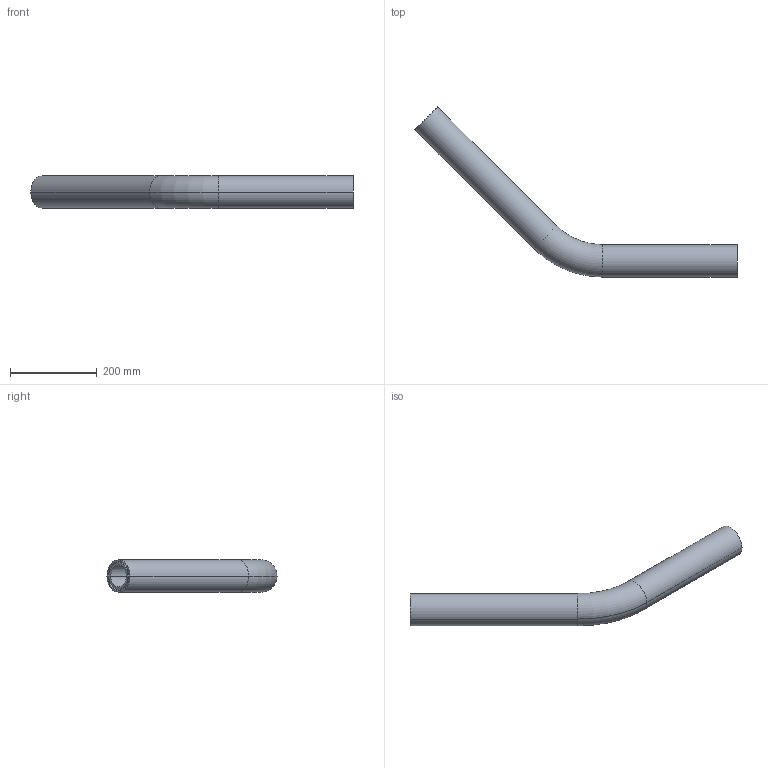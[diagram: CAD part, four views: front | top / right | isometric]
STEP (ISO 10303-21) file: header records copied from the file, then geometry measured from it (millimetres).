
FILE_DESCRIPTION (( 'STEP AP214' ), '1' );
FILE_NAME ('KP 4-75-63SCEC.STEP', '2022-09-09T05:39:28', ( '' ), ( '' ), 'SwSTEP 2.0', 'SolidWorks 2022', '' );
FILE_SCHEMA (( 'AUTOMOTIVE_DESIGN' ));
Length unit declared in the file: millimetre
Products named in the file (1): KP 4-75-63SCEC
Bounding box: 745 x 393.35 x 75 mm (x, y, z)
Volume: 1575728.4 mm3; surface area: 687804.1 mm2
Topology: 2 solids, 2 shells, 28 faces, 56 edges, 32 vertices
Faces by surface type: cylinder 16, torus 8, plane 4
Entity records: 1047 total; most frequent: DIRECTION 154, CARTESIAN_POINT 117, ORIENTED_EDGE 112, AXIS2_PLACEMENT_3D 69, EDGE_CURVE 56, CIRCLE 40, EDGE_LOOP 32, VERTEX_POINT 32
